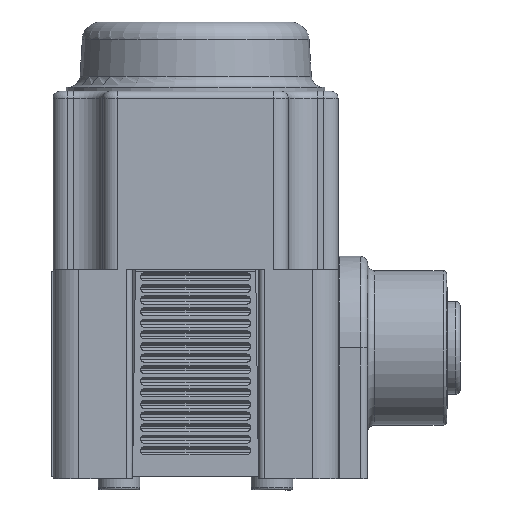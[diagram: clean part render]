
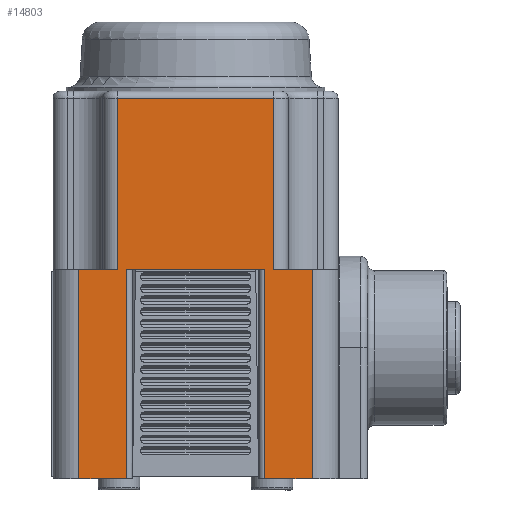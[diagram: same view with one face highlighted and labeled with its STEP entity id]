
A CAD part, left-side view. The second image highlights one B-rep face of the part: STEP entity #14803.
In plain terms, the highlighted planar face has unit normal (-1, 0, 0).
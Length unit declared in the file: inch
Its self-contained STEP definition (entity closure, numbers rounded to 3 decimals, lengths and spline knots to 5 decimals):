
#864=PLANE('',#16347);
#1641=FACE_OUTER_BOUND('',#2532,.T.);
#2532=EDGE_LOOP('',(#12786,#12787,#12788,#12789,#12790,#12791,#12792,#12793,
#12794,#12795,#12796,#12797));
#4223=LINE('',#26682,#5204);
#4236=LINE('',#26752,#5217);
#4352=LINE('',#28325,#5333);
#4369=LINE('',#28384,#5350);
#4370=LINE('',#28388,#5351);
#4373=LINE('',#28407,#5354);
#4386=LINE('',#28483,#5367);
#4387=LINE('',#28487,#5368);
#4388=LINE('',#28488,#5369);
#4389=LINE('',#28490,#5370);
#4390=LINE('',#28492,#5371);
#4391=LINE('',#28493,#5372);
#5204=VECTOR('',#19761,0.3937);
#5217=VECTOR('',#19844,0.3937);
#5333=VECTOR('',#20154,0.3937);
#5350=VECTOR('',#20225,0.3937);
#5351=VECTOR('',#20230,0.3937);
#5354=VECTOR('',#20251,0.3937);
#5367=VECTOR('',#20352,0.3937);
#5368=VECTOR('',#20357,0.3937);
#5369=VECTOR('',#20358,0.3937);
#5370=VECTOR('',#20359,0.3937);
#5371=VECTOR('',#20360,0.3937);
#5372=VECTOR('',#20361,0.3937);
#6537=VERTEX_POINT('',#26674);
#6539=VERTEX_POINT('',#26680);
#6561=VERTEX_POINT('',#26750);
#6691=VERTEX_POINT('',#28322);
#6692=VERTEX_POINT('',#28324);
#6707=VERTEX_POINT('',#28383);
#6708=VERTEX_POINT('',#28387);
#6715=VERTEX_POINT('',#28405);
#6734=VERTEX_POINT('',#28482);
#6735=VERTEX_POINT('',#28486);
#6736=VERTEX_POINT('',#28489);
#6737=VERTEX_POINT('',#28491);
#8470=EDGE_CURVE('',#6539,#6537,#4223,.T.);
#8506=EDGE_CURVE('',#6561,#6539,#4236,.T.);
#8708=EDGE_CURVE('',#6692,#6691,#4352,.T.);
#8737=EDGE_CURVE('',#6707,#6537,#4369,.T.);
#8739=EDGE_CURVE('',#6708,#6707,#4370,.T.);
#8749=EDGE_CURVE('',#6561,#6715,#4373,.T.);
#8787=EDGE_CURVE('',#6734,#6692,#4386,.T.);
#8789=EDGE_CURVE('',#6735,#6715,#4387,.T.);
#8790=EDGE_CURVE('',#6734,#6735,#4388,.T.);
#8791=EDGE_CURVE('',#6736,#6691,#4389,.T.);
#8792=EDGE_CURVE('',#6736,#6737,#4390,.T.);
#8793=EDGE_CURVE('',#6737,#6708,#4391,.T.);
#12786=ORIENTED_EDGE('',*,*,#8470,.F.);
#12787=ORIENTED_EDGE('',*,*,#8506,.F.);
#12788=ORIENTED_EDGE('',*,*,#8749,.T.);
#12789=ORIENTED_EDGE('',*,*,#8789,.F.);
#12790=ORIENTED_EDGE('',*,*,#8790,.F.);
#12791=ORIENTED_EDGE('',*,*,#8787,.T.);
#12792=ORIENTED_EDGE('',*,*,#8708,.T.);
#12793=ORIENTED_EDGE('',*,*,#8791,.F.);
#12794=ORIENTED_EDGE('',*,*,#8792,.T.);
#12795=ORIENTED_EDGE('',*,*,#8793,.T.);
#12796=ORIENTED_EDGE('',*,*,#8739,.T.);
#12797=ORIENTED_EDGE('',*,*,#8737,.T.);
#14803=ADVANCED_FACE('',(#1641),#864,.T.);
#16347=AXIS2_PLACEMENT_3D('',#28485,#20355,#20356);
#19761=DIRECTION('',(0.,-1.,0.));
#19844=DIRECTION('',(0.,0.,1.));
#20154=DIRECTION('',(0.,-1.,0.));
#20225=DIRECTION('',(0.,0.,1.));
#20230=DIRECTION('',(0.,1.,0.));
#20251=DIRECTION('',(0.,1.,0.));
#20352=DIRECTION('',(0.,0.,1.));
#20355=DIRECTION('center_axis',(-1.,0.,0.));
#20356=DIRECTION('ref_axis',(0.,0.,1.));
#20357=DIRECTION('',(0.,0.,1.));
#20358=DIRECTION('',(0.,1.,0.));
#20359=DIRECTION('',(0.,0.,1.));
#20360=DIRECTION('',(0.,-1.,0.));
#20361=DIRECTION('',(0.,0.,1.));
#26674=CARTESIAN_POINT('',(-0.97331,-0.22903,0.6733));
#26680=CARTESIAN_POINT('',(-0.97331,0.43897,0.6733));
#26682=CARTESIAN_POINT('',(-0.97331,0.43897,0.6733));
#26750=CARTESIAN_POINT('',(-0.97331,0.43897,-0.0587));
#26752=CARTESIAN_POINT('',(-0.97331,0.43897,-0.0587));
#28322=CARTESIAN_POINT('',(-0.97331,-0.18903,-0.0587));
#28324=CARTESIAN_POINT('',(-0.97331,0.39897,-0.0587));
#28325=CARTESIAN_POINT('',(-0.97331,0.39897,-0.0587));
#28383=CARTESIAN_POINT('',(-0.97331,-0.22903,-0.0587));
#28384=CARTESIAN_POINT('',(-0.97331,-0.22903,-0.0587));
#28387=CARTESIAN_POINT('',(-0.97331,-0.39403,-0.0587));
#28388=CARTESIAN_POINT('',(-0.97331,-0.39403,-0.0587));
#28405=CARTESIAN_POINT('',(-0.97331,0.60397,-0.0587));
#28407=CARTESIAN_POINT('',(-0.97331,0.43897,-0.0587));
#28482=CARTESIAN_POINT('',(-0.97331,0.39897,-0.9527));
#28483=CARTESIAN_POINT('',(-0.97331,0.39897,-0.9527));
#28485=CARTESIAN_POINT('Origin',(-0.97331,-0.39442,-0.1397));
#28486=CARTESIAN_POINT('',(-0.97331,0.60397,-0.9527));
#28487=CARTESIAN_POINT('',(-0.97331,0.60397,-0.9527));
#28488=CARTESIAN_POINT('',(-0.97331,0.39897,-0.9527));
#28489=CARTESIAN_POINT('',(-0.97331,-0.18903,-0.9527));
#28490=CARTESIAN_POINT('',(-0.97331,-0.18903,-0.9527));
#28491=CARTESIAN_POINT('',(-0.97331,-0.39403,-0.9527));
#28492=CARTESIAN_POINT('',(-0.97331,-0.18903,-0.9527));
#28493=CARTESIAN_POINT('',(-0.97331,-0.39403,-0.9527));
